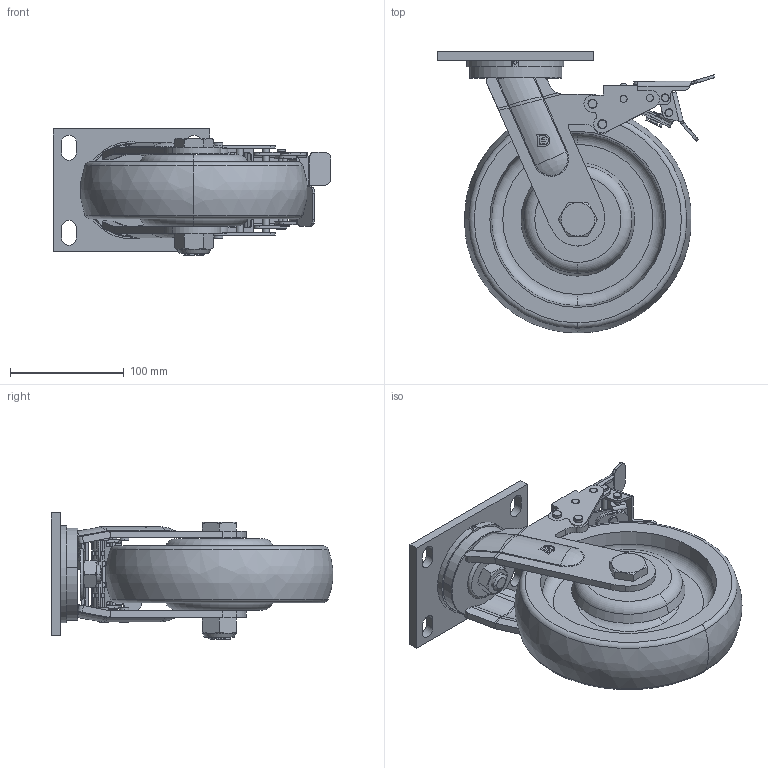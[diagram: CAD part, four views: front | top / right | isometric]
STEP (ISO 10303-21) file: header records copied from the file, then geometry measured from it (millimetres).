
FILE_DESCRIPTION((''),'2;1');
FILE_NAME('PRT0048','2026-01-26T11:03:21',('Administrator'),(''),'CREO PARAMETRIC BY PTC INC, 2022124','CREO PARAMETRIC BY PTC INC, 2022124','');
FILE_SCHEMA(('AUTOMOTIVE_DESIGN { 1 0 10303 214 1 1 1 1 }'));
Length unit declared in the file: millimetre
Products named in the file (1): PRT0048
Bounding box: 244.75 x 247.83 x 111 mm (x, y, z)
Surface area: 271504.3 mm2 (no closed solid volume)
Topology: 0 solids, 71 shells, 535 faces, 1918 edges, 1429 vertices
Faces by surface type: cylinder 219, plane 200, torus 43, cone 42, bspline 30, extrusion 1
Entity records: 27785 total; most frequent: CARTESIAN_POINT 7743, DIRECTION 3403, ORIENTED_EDGE 2959, EDGE_CURVE 1912, VERTEX_POINT 1429, AXIS2_PLACEMENT_3D 1220, VECTOR 960, LINE 959
